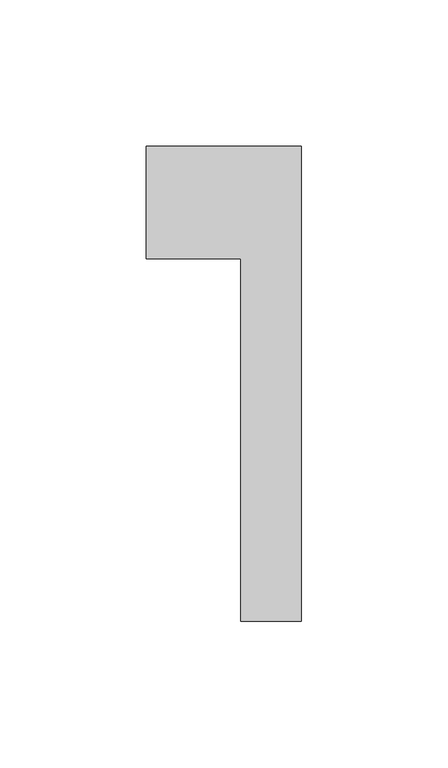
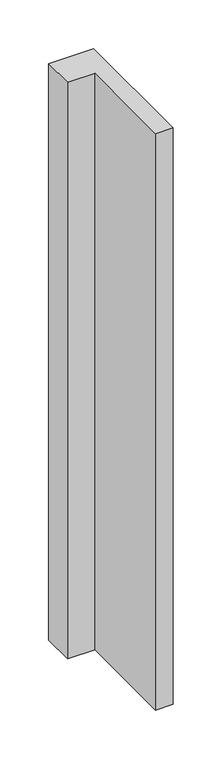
"""IFC4 building model written with IfcOpenShell, lengths in millimetres: furniture geometry, ajuste mueble - esquinas5 : ajuste mueble - esquinas."""

from ifc_helpers import new_model, si_unit, frame, origin, place, context, project, spatial, polyline, outline, extrude, source, transform, mapped, element, save


def furniture_471029ad(model_context):
    return source(origin(), model_context, "Body", "SweptSolid", [
        extrude(outline(polyline([(50196.1908228, 27107.1938673), (50163.8684929, 27107.1938673), (50163.8684929, 27145.7129416), (50217.0015651, 27145.7129416), (50217.0015651, 26983.0993789), (50196.1908228, 26983.0993789), (50196.1908228, 27107.1938673)])), frame((0.0, 0.0, 6150.0), z_axis=(0.0, 0.0, 1.0), x_axis=(1.0, 0.0, 0.0)), (0.0, 0.0, 1.0), 720.0),
    ])


if __name__ == "__main__":
    model = new_model("IFC4")
    model_context = context("Model", 3, world=origin())
    ifc_project = project(units=[si_unit("LENGTHUNIT", "METRE", prefix="MILLI")], contexts=[model_context])
    site = spatial("IfcSite", under=ifc_project)
    building = spatial("IfcBuilding", under=site)
    placement = place(None, origin())
    furniture_shape = furniture_471029ad(model_context)
    element("IfcFurniture", 1, ObjectType="ajuste mueble - esquinas5 : ajuste mueble - esquinas", at=placement, inside=building, context=model_context, shape_type="MappedRepresentation", body=[
        mapped(furniture_shape, transform((0.0, 0.0, 0.0), x_axis=(1.0, 0.0, 0.0), y_axis=(0.0, 1.0, 0.0), z_axis=(0.0, 0.0, 1.0))),
    ])
    save(model, "model.ifc")
